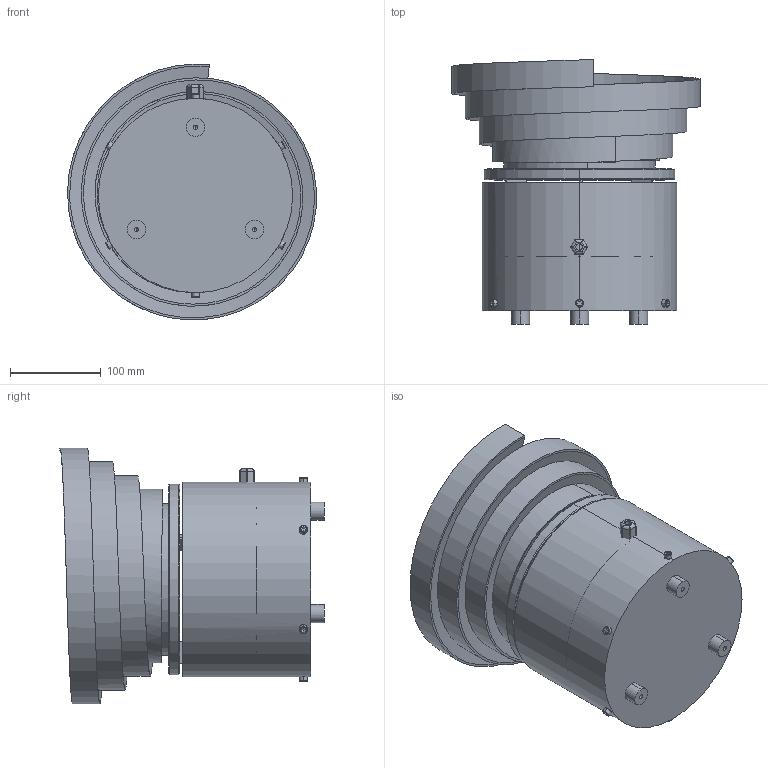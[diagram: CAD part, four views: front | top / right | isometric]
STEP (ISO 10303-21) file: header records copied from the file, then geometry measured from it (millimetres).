
FILE_DESCRIPTION (( 'STEP AP214' ), '1' );
FILE_NAME ('PW250_A315-30_LEWY_WIBRAMET.STEP', '2020-10-27T11:29:06', ( '' ), ( '' ), 'SwSTEP 2.0', 'SolidWorks 2017', '' );
FILE_SCHEMA (( 'AUTOMOTIVE_DESIGN' ));
Length unit declared in the file: millimetre
Products named in the file (5): PW250-00.22[Podk³adka]; socket head cap screw_iso_ISO 4762 M10 x 30 - 30N; PW250_WIBRAMET; PW250_A315-30_LEWY_WIBRAMET; A315L-30
Assembly tree (4 placements, depth 2):
  PW250_A315-30_LEWY_WIBRAMET
    PW250_WIBRAMET
    A315L-30
    PW250-00.22[Podk³adka]
    socket head cap screw_iso_ISO 4762 M10 x 30 - 30N
Bounding box: 273.98 x 291.26 x 281.53 mm (x, y, z)
Volume: 2678248 mm3; surface area: 641359.8 mm2
Topology: 4 solids, 9 shells, 249 faces, 569 edges, 341 vertices
Faces by surface type: plane 104, cylinder 71, cone 32, bspline 19, torus 16, sphere 7
Entity records: 12460 total; most frequent: CARTESIAN_POINT 6496, DIRECTION 1147, ORIENTED_EDGE 1098, EDGE_CURVE 551, AXIS2_PLACEMENT_3D 416, VERTEX_POINT 341, LINE 315, VECTOR 315
